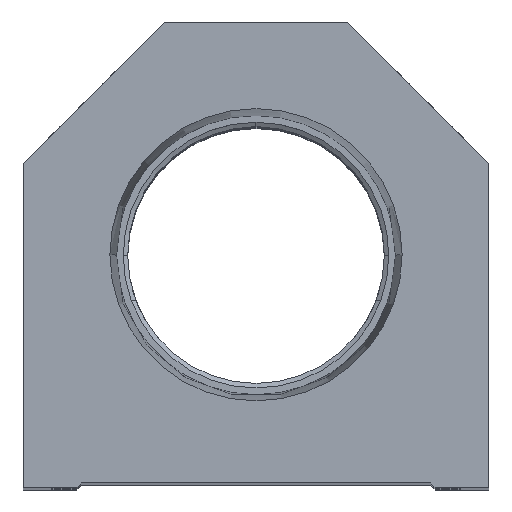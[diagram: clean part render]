
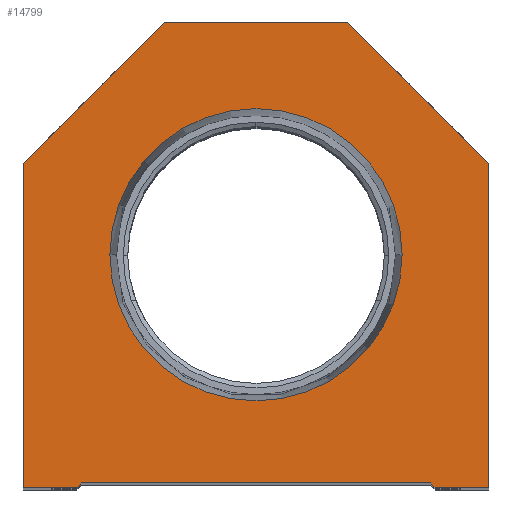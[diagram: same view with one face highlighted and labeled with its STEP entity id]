
A CAD part, top view. The second image highlights one B-rep face of the part: STEP entity #14799.
In plain terms, the highlighted planar face has unit normal (0, 0, 1).
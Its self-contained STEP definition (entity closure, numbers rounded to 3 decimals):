
#180 = FACE_OUTER_BOUND ( 'NONE', #20352, .T. ) ;
#566 = LINE ( 'NONE', #20430, #16930 ) ;
#941 = VECTOR ( 'NONE', #10074, 1000. ) ;
#1175 = VECTOR ( 'NONE', #3480, 1000. ) ;
#1864 = LINE ( 'NONE', #3544, #17022 ) ;
#2012 = CIRCLE ( 'NONE', #4083, 15.947 ) ;
#2096 = EDGE_CURVE ( 'NONE', #14695, #15757, #17017, .T. ) ;
#2195 = VERTEX_POINT ( 'NONE', #9330 ) ;
#2285 = VECTOR ( 'NONE', #9955, 1000. ) ;
#2339 = DIRECTION ( 'NONE',  ( 0., 1., 0. ) ) ;
#2535 = EDGE_CURVE ( 'NONE', #3442, #16444, #20165, .T. ) ;
#2889 = CARTESIAN_POINT ( 'NONE',  ( -15.947, 25.4, 0. ) ) ;
#3058 = CARTESIAN_POINT ( 'NONE',  ( -25.4, 35.4, 0. ) ) ;
#3119 = VERTEX_POINT ( 'NONE', #12840 ) ;
#3148 = LINE ( 'NONE', #3356, #1175 ) ;
#3219 = CARTESIAN_POINT ( 'NONE',  ( -19.05, 0., 0. ) ) ;
#3356 = CARTESIAN_POINT ( 'NONE',  ( -9.775, 9.775, 0. ) ) ;
#3413 = CARTESIAN_POINT ( 'NONE',  ( -10., 50.8, 0. ) ) ;
#3442 = VERTEX_POINT ( 'NONE', #11837 ) ;
#3480 = DIRECTION ( 'NONE',  ( 0.707, 0.707, 0. ) ) ;
#3544 = CARTESIAN_POINT ( 'NONE',  ( 9.775, 9.775, 0. ) ) ;
#3608 = CARTESIAN_POINT ( 'NONE',  ( -19.55, 0., 0. ) ) ;
#3749 = AXIS2_PLACEMENT_3D ( 'NONE', #18180, #7955, #11100 ) ;
#4083 = AXIS2_PLACEMENT_3D ( 'NONE', #19782, #9332, #17891 ) ;
#4089 = ORIENTED_EDGE ( 'NONE', *, *, #6425, .T. ) ;
#4182 = AXIS2_PLACEMENT_3D ( 'NONE', #14083, #13867, #15326 ) ;
#4312 = ORIENTED_EDGE ( 'NONE', *, *, #6106, .T. ) ;
#4377 = VERTEX_POINT ( 'NONE', #3608 ) ;
#4707 = CARTESIAN_POINT ( 'NONE',  ( 19.05, 0., 0. ) ) ;
#5804 = LINE ( 'NONE', #9148, #941 ) ;
#6084 = EDGE_CURVE ( 'NONE', #4377, #2195, #3148, .T. ) ;
#6106 = EDGE_CURVE ( 'NONE', #2195, #3119, #6602, .T. ) ;
#6261 = VECTOR ( 'NONE', #16871, 1000. ) ;
#6425 = EDGE_CURVE ( 'NONE', #20447, #14613, #566, .T. ) ;
#6602 = LINE ( 'NONE', #13156, #21210 ) ;
#6769 = VECTOR ( 'NONE', #10004, 1000. ) ;
#6923 = EDGE_CURVE ( 'NONE', #15757, #14744, #10489, .T. ) ;
#7083 = CARTESIAN_POINT ( 'NONE',  ( 25.4, 35.4, 0. ) ) ;
#7267 = CARTESIAN_POINT ( 'NONE',  ( 25.4, 0., 0. ) ) ;
#7424 = VERTEX_POINT ( 'NONE', #18746 ) ;
#7955 = DIRECTION ( 'NONE',  ( 0., 0., 1. ) ) ;
#8243 = EDGE_CURVE ( 'NONE', #3119, #14695, #1864, .T. ) ;
#8809 = EDGE_CURVE ( 'NONE', #18466, #20447, #5804, .T. ) ;
#9056 = ORIENTED_EDGE ( 'NONE', *, *, #8243, .T. ) ;
#9148 = CARTESIAN_POINT ( 'NONE',  ( 10., 50.8, 0. ) ) ;
#9330 = CARTESIAN_POINT ( 'NONE',  ( -19.05, 0.5, 0. ) ) ;
#9332 = DIRECTION ( 'NONE',  ( 0., 0., 1. ) ) ;
#9532 = ORIENTED_EDGE ( 'NONE', *, *, #12523, .T. ) ;
#9871 = EDGE_CURVE ( 'NONE', #7424, #4377, #14618, .T. ) ;
#9939 = DIRECTION ( 'NONE',  ( 1., 0., 0. ) ) ;
#9955 = DIRECTION ( 'NONE',  ( 1., 0., 0. ) ) ;
#10004 = DIRECTION ( 'NONE',  ( 1., 0., 0. ) ) ;
#10074 = DIRECTION ( 'NONE',  ( -1., 0., 0. ) ) ;
#10136 = ORIENTED_EDGE ( 'NONE', *, *, #2096, .T. ) ;
#10489 = LINE ( 'NONE', #7267, #13338 ) ;
#10765 = ORIENTED_EDGE ( 'NONE', *, *, #12778, .F. ) ;
#11074 = DIRECTION ( 'NONE',  ( 0., -1., 0. ) ) ;
#11100 = DIRECTION ( 'NONE',  ( 1., 0., 0. ) ) ;
#11596 = EDGE_LOOP ( 'NONE', ( #13914, #10765 ) ) ;
#11837 = CARTESIAN_POINT ( 'NONE',  ( 15.947, 25.4, 0. ) ) ;
#12339 = DIRECTION ( 'NONE',  ( 0.707, -0.707, 0. ) ) ;
#12523 = EDGE_CURVE ( 'NONE', #14613, #7424, #19704, .T. ) ;
#12778 = EDGE_CURVE ( 'NONE', #16444, #3442, #2012, .T. ) ;
#12840 = CARTESIAN_POINT ( 'NONE',  ( 19.05, 0.5, 0. ) ) ;
#13156 = CARTESIAN_POINT ( 'NONE',  ( -19.05, 0.5, 0. ) ) ;
#13338 = VECTOR ( 'NONE', #2339, 1000. ) ;
#13487 = ORIENTED_EDGE ( 'NONE', *, *, #6084, .T. ) ;
#13867 = DIRECTION ( 'NONE',  ( 0., 0., 1. ) ) ;
#13914 = ORIENTED_EDGE ( 'NONE', *, *, #2535, .F. ) ;
#14083 = CARTESIAN_POINT ( 'NONE',  ( 0., 0., 0. ) ) ;
#14405 = CARTESIAN_POINT ( 'NONE',  ( -25.4, 0., 0. ) ) ;
#14613 = VERTEX_POINT ( 'NONE', #3058 ) ;
#14618 = LINE ( 'NONE', #3219, #6769 ) ;
#14695 = VERTEX_POINT ( 'NONE', #22093 ) ;
#14744 = VERTEX_POINT ( 'NONE', #7083 ) ;
#14799 = ADVANCED_FACE ( 'NONE', ( #18937, #180 ), #19040, .T. ) ;
#15326 = DIRECTION ( 'NONE',  ( 1., 0., 0. ) ) ;
#15619 = DIRECTION ( 'NONE',  ( -0.707, -0.707, 0. ) ) ;
#15757 = VERTEX_POINT ( 'NONE', #21882 ) ;
#15955 = ORIENTED_EDGE ( 'NONE', *, *, #9871, .T. ) ;
#16200 = EDGE_CURVE ( 'NONE', #14744, #18466, #18675, .T. ) ;
#16444 = VERTEX_POINT ( 'NONE', #2889 ) ;
#16871 = DIRECTION ( 'NONE',  ( -0.707, 0.707, 0. ) ) ;
#16930 = VECTOR ( 'NONE', #15619, 1000. ) ;
#17017 = LINE ( 'NONE', #4707, #2285 ) ;
#17022 = VECTOR ( 'NONE', #12339, 1000. ) ;
#17060 = ORIENTED_EDGE ( 'NONE', *, *, #6923, .T. ) ;
#17149 = CARTESIAN_POINT ( 'NONE',  ( 10., 50.8, 0. ) ) ;
#17891 = DIRECTION ( 'NONE',  ( 1., 0., 0. ) ) ;
#18180 = CARTESIAN_POINT ( 'NONE',  ( 0., 25.4, 0. ) ) ;
#18466 = VERTEX_POINT ( 'NONE', #17149 ) ;
#18471 = CARTESIAN_POINT ( 'NONE',  ( 25.4, 35.4, 0. ) ) ;
#18675 = LINE ( 'NONE', #18471, #6261 ) ;
#18746 = CARTESIAN_POINT ( 'NONE',  ( -25.4, 0., 0. ) ) ;
#18880 = ORIENTED_EDGE ( 'NONE', *, *, #16200, .T. ) ;
#18937 = FACE_BOUND ( 'NONE', #11596, .T. ) ;
#19040 = PLANE ( 'NONE',  #4182 ) ;
#19704 = LINE ( 'NONE', #14405, #19844 ) ;
#19782 = CARTESIAN_POINT ( 'NONE',  ( 0., 25.4, 0. ) ) ;
#19844 = VECTOR ( 'NONE', #11074, 1000. ) ;
#20165 = CIRCLE ( 'NONE', #3749, 15.947 ) ;
#20352 = EDGE_LOOP ( 'NONE', ( #15955, #13487, #4312, #9056, #10136, #17060, #18880, #20354, #4089, #9532 ) ) ;
#20354 = ORIENTED_EDGE ( 'NONE', *, *, #8809, .T. ) ;
#20430 = CARTESIAN_POINT ( 'NONE',  ( -25.4, 35.4, 0. ) ) ;
#20447 = VERTEX_POINT ( 'NONE', #3413 ) ;
#21210 = VECTOR ( 'NONE', #9939, 1000. ) ;
#21882 = CARTESIAN_POINT ( 'NONE',  ( 25.4, 0., 0. ) ) ;
#22093 = CARTESIAN_POINT ( 'NONE',  ( 19.55, 0., 0. ) ) ;
